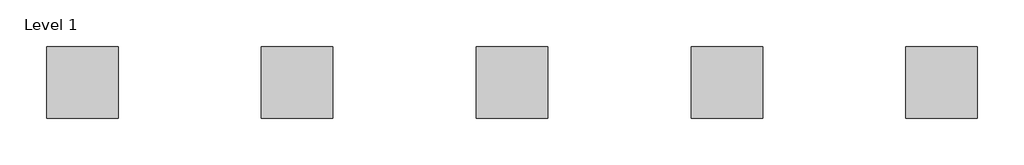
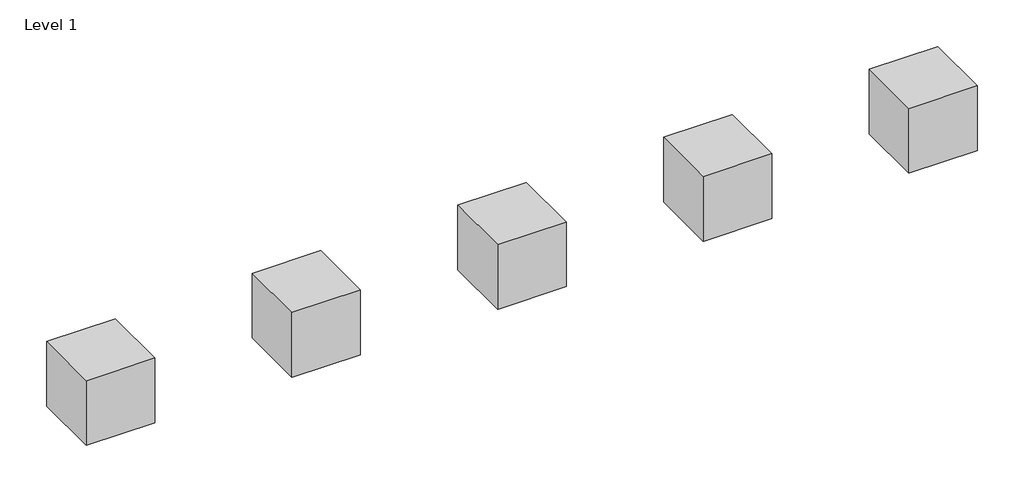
# One storey: 5 proxies.
"""IFC4 building model written with IfcOpenShell, lengths in millimetres."""

import ifcopenshell
import ifcopenshell.guid

model = None  # the IFC model being written
_history = None  # IfcOwnerHistory: only IFC2X3 demands one
_inside = {}  # id of a spatial element -> (the spatial element, [elements in it])
_under = {}  # id of a project, library or spatial element -> (it, [spatial elements below it])
_declared = {}  # id of a project -> (the project, [libraries it declares])
_typed = {}  # id of a type object -> (the type object, [elements of that type])
_made_of = {}  # id of a material, layer set ... -> (it, [elements and type objects made of it])


def new_model(schema):
    """Start an empty IFC model of exactly this schema.

    Asked for "IFC4X3", IfcOpenShell would pick the latest addendum, in which some entities
    have other attributes; the version numbers below select the first issue.
    IFC2X3 requires an IfcOwnerHistory on every rooted entity: one is made here for all.
    """
    global model, _history
    if schema == "IFC4X3":
        model = ifcopenshell.file(schema_version=(4, 3, 0, 0))
    else:
        model = ifcopenshell.file(schema=schema)
    _inside.clear()
    _under.clear()
    _declared.clear()
    _typed.clear()
    _made_of.clear()
    _history = None
    if model.schema == "IFC2X3":
        org = make("IfcOrganization", Name="unknown")
        user = make(
            "IfcPersonAndOrganization",
            ThePerson=make("IfcPerson", FamilyName="unknown"),
            TheOrganization=org,
        )
        app = make(
            "IfcApplication",
            ApplicationDeveloper=org,
            Version="unknown",
            ApplicationFullName="unknown",
            ApplicationIdentifier="unknown",
        )
        _history = make(
            "IfcOwnerHistory",
            OwningUser=user,
            OwningApplication=app,
            ChangeAction="ADDED",
            CreationDate=0,
        )
    return model


def make(cls, **values):
    """One entity of the class cls with the attributes given. An attribute that is None is left unset."""
    return model.create_entity(
        cls, **{name: value for name, value in values.items() if value is not None}
    )


def rooted(cls, **values):
    """An entity with a GlobalId (a new one), such as an element, a storey or a relation."""
    return make(cls, GlobalId=ifcopenshell.guid.new(), OwnerHistory=_history, **values)


def si_unit(unit_type, name, prefix=None):
    """IfcSIUnit, for example si_unit("LENGTHUNIT", "METRE", prefix="MILLI")."""
    return make("IfcSIUnit", UnitType=unit_type, Prefix=prefix, Name=name)


def assignment(units):
    """IfcUnitAssignment: the units of a project."""
    return None if units is None else make("IfcUnitAssignment", Units=units)


def point(xyz):
    """IfcCartesianPoint."""
    return None if xyz is None else make("IfcCartesianPoint", Coordinates=xyz)


def direction(xyz):
    """IfcDirection."""
    return None if xyz is None else make("IfcDirection", DirectionRatios=xyz)


def frame(location, z_axis=None, x_axis=None):
    """IfcAxis2Placement3D, a coordinate frame: its origin and axes. An axis left out is left unset."""
    return make(
        "IfcAxis2Placement3D",
        Location=point(location),
        Axis=direction(z_axis),
        RefDirection=direction(x_axis),
    )


def origin():
    """The frame at (0, 0, 0) with its axes left unset."""
    return frame((0.0, 0.0, 0.0))


def origin_with_axes():
    """The frame at (0, 0, 0) with the z axis (0, 0, 1) and the x axis (1, 0, 0) written out."""
    return frame((0.0, 0.0, 0.0), z_axis=(0.0, 0.0, 1.0), x_axis=(1.0, 0.0, 0.0))


def place(relative_to, where):
    """IfcLocalPlacement: puts the frame where relative to a parent placement (None: the world)."""
    return make(
        "IfcLocalPlacement", PlacementRelTo=relative_to, RelativePlacement=where
    )


def context(
    kind, dimensions, precision=None, world=None, true_north=None, identifier=None
):
    """IfcGeometricRepresentationContext, for example the 3D "Model" context."""
    return make(
        "IfcGeometricRepresentationContext",
        ContextIdentifier=identifier,
        ContextType=kind,
        CoordinateSpaceDimension=dimensions,
        Precision=precision,
        WorldCoordinateSystem=world,
        TrueNorth=true_north,
    )


def project(units=None, contexts=None):
    """IfcProject with its units and contexts."""
    return rooted(
        "IfcProject",
        Name="project",
        RepresentationContexts=contexts,
        UnitsInContext=assignment(units),
    )


def spatial(cls, under=None, at=None, **own):
    """A site, building, storey or space (cls), placed at a placement, below another one or the project."""
    s = rooted(cls, ObjectPlacement=at, **own)
    if under is not None:
        _under.setdefault(under.id(), (under, []))[1].append(s)
    return s


def polyline(points):
    """IfcPolyline through the points."""
    return make("IfcPolyline", Points=[point(p) for p in points])


def outline(outer, holes=None, kind="AREA"):
    """IfcArbitraryClosedProfileDef: a profile drawn as a closed curve; with holes, ...WithVoids."""
    if holes is None:
        return make("IfcArbitraryClosedProfileDef", ProfileType=kind, OuterCurve=outer)
    return make(
        "IfcArbitraryProfileDefWithVoids",
        ProfileType=kind,
        OuterCurve=outer,
        InnerCurves=holes,
    )


def extrude(swept, where, along, depth):
    """IfcExtrudedAreaSolid: the profile swept, set in the frame where, extruded along a direction by depth."""
    return make(
        "IfcExtrudedAreaSolid",
        SweptArea=swept,
        Position=where,
        ExtrudedDirection=direction(along),
        Depth=depth,
    )


def shape(context_of_items, identifier, shape_type, items):
    """IfcShapeRepresentation: the items that make up one representation, for example the "Body"."""
    return make(
        "IfcShapeRepresentation",
        ContextOfItems=context_of_items,
        RepresentationIdentifier=identifier,
        RepresentationType=shape_type,
        Items=items,
    )


def source(mapping_origin, context_of_items, identifier, shape_type, items):
    """IfcRepresentationMap: a shape defined once, which mapped items show again and again."""
    return make(
        "IfcRepresentationMap",
        MappingOrigin=mapping_origin,
        MappedRepresentation=shape(context_of_items, identifier, shape_type, items),
    )


def transform(
    local_origin,
    x_axis=None,
    y_axis=None,
    z_axis=None,
    scale=None,
    scale2=None,
    scale3=None,
    uniform=True,
):
    """IfcCartesianTransformationOperator3D, or its non-uniform kind. x_axis, y_axis, z_axis: its Axis1, 2, 3."""
    if uniform:
        return make(
            "IfcCartesianTransformationOperator3D",
            Axis1=direction(x_axis),
            Axis2=direction(y_axis),
            LocalOrigin=point(local_origin),
            Scale=scale,
            Axis3=direction(z_axis),
        )
    return make(
        "IfcCartesianTransformationOperator3DnonUniform",
        Axis1=direction(x_axis),
        Axis2=direction(y_axis),
        LocalOrigin=point(local_origin),
        Scale=scale,
        Axis3=direction(z_axis),
        Scale2=scale2,
        Scale3=scale3,
    )


def mapped(mapping_source, mapping_target):
    """IfcMappedItem: shows the shape of a source again, moved by a transform."""
    return make(
        "IfcMappedItem", MappingSource=mapping_source, MappingTarget=mapping_target
    )


def made_of(thing, what):
    """Note that an element or type object is made of a material, layer set ...; save() writes the relation."""
    if what is not None:
        _made_of.setdefault(what.id(), (what, []))[1].append(thing)
    return thing


def element(
    cls,
    number,
    at=None,
    inside=None,
    cuts=None,
    type_object=None,
    material=None,
    context=None,
    identifier="Body",
    shape_type=None,
    held_by="IfcProductDefinitionShape",
    body=None,
    shapes=None,
    **own,
):
    """One element of the class cls, such as IfcWall. Its Tag is "e" and its number.

    at: its placement. inside: the storey or other place that contains it. cuts: it is an
    opening in that element (IfcRelVoidsElement). A single representation is given by context,
    identifier, shape_type and body (its items); several are given by shapes. held_by: the class
    of the entity that holds the representations. save() writes the other relations.
    """
    e = rooted(cls, Tag="e%d" % number, ObjectPlacement=at, **own)
    if body is not None:
        shapes = [shape(context, identifier, shape_type, body)]
    if shapes is not None:
        e.Representation = make(held_by, Representations=shapes)
    if inside is not None:
        _inside.setdefault(inside.id(), (inside, []))[1].append(e)
    if cuts is not None:
        rooted(
            "IfcRelVoidsElement", RelatingBuildingElement=cuts, RelatedOpeningElement=e
        )
    if type_object is not None:
        _typed.setdefault(type_object.id(), (type_object, []))[1].append(e)
    return made_of(e, material)


def aggregate(whole, parts):
    """IfcRelAggregates: a whole, such as a stair, and the parts it consists of."""
    return rooted("IfcRelAggregates", RelatingObject=whole, RelatedObjects=parts)


def save(model, path):
    """Write the relations noted so far, then the file.

    IfcRelAggregates (storeys below a building ...), IfcRelContainedInSpatialStructure (elements
    in a storey), IfcRelDefinesByType, IfcRelAssociatesMaterial and IfcRelDeclares: one each for
    every whole, place, type object, material and project.
    """
    for whole, parts in _under.values():
        aggregate(whole, parts)
    for where, things in _inside.values():
        rooted(
            "IfcRelContainedInSpatialStructure",
            RelatedElements=things,
            RelatingStructure=where,
        )
    for kind, things in _typed.values():
        rooted("IfcRelDefinesByType", RelatedObjects=things, RelatingType=kind)
    for what, things in _made_of.values():
        rooted("IfcRelAssociatesMaterial", RelatedObjects=things, RelatingMaterial=what)
    for by, libraries in _declared.values():
        rooted("IfcRelDeclares", RelatingContext=by, RelatedDefinitions=libraries)
    model.write(path)


def material_box_material_box_b1b65d76(model_context):
    return source(origin(), model_context, "Body", "SweptSolid", [
        extrude(outline(polyline([(-12108.9561438, 8001.6409453), (-12108.9561438, 7001.6409453), (-13108.9561438, 7001.6409453), (-13108.9561438, 8001.6409453), (-12108.9561438, 8001.6409453)])), origin_with_axes(), (0.0, 0.0, 1.0), 1000.0),
    ])


model = new_model("IFC4")

# Units and contexts
model_context = context("Model", 3, world=origin())
ifc_project = project(units=[si_unit("LENGTHUNIT", "METRE", prefix="MILLI")], contexts=[model_context])

# Site, building, storey
site = spatial("IfcSite", under=ifc_project)
building = spatial("IfcBuilding", under=site)
storey = spatial("IfcBuildingStorey", under=building, Name="Level 1", Elevation=0.0)

# Proxies
placement = place(None, origin())
material_box_material_box_shape = material_box_material_box_b1b65d76(model_context)
element("IfcBuildingElementProxy", 1, Name="Material Box : Material Box", ObjectType="Material Box : Material Box", at=placement, inside=storey, context=model_context, shape_type="MappedRepresentation", body=[
    mapped(material_box_material_box_shape, transform((7353.9105243, -7353.9105243, 0.0), x_axis=(1.0, 0.0, 0.0), y_axis=(0.0, 1.0, 0.0), z_axis=(0.0, 0.0, 1.0))),
])
element("IfcBuildingElementProxy", 2, Name="Material Box1 : Material Box", ObjectType="Material Box1 : Material Box", at=placement, inside=storey, context=model_context, shape_type="MappedRepresentation", body=[
    mapped(material_box_material_box_shape, transform((10353.9105243, -7353.9105243, 0.0), x_axis=(1.0, 0.0, 0.0), y_axis=(0.0, 1.0, 0.0), z_axis=(0.0, 0.0, 1.0))),
])
element("IfcBuildingElementProxy", 3, Name="Material Box2 : Material Box", ObjectType="Material Box2 : Material Box", at=placement, inside=storey, context=model_context, shape_type="MappedRepresentation", body=[
    mapped(material_box_material_box_shape, transform((13353.9105243, -7353.9105243, 0.0), x_axis=(1.0, 0.0, 0.0), y_axis=(0.0, 1.0, 0.0), z_axis=(0.0, 0.0, 1.0))),
])
element("IfcBuildingElementProxy", 4, Name="Material Box3 : Material Box", ObjectType="Material Box3 : Material Box", at=placement, inside=storey, context=model_context, shape_type="MappedRepresentation", body=[
    mapped(material_box_material_box_shape, transform((16353.9105243, -7353.9105243, 0.0), x_axis=(1.0, 0.0, 0.0), y_axis=(0.0, 1.0, 0.0), z_axis=(0.0, 0.0, 1.0))),
])
element("IfcBuildingElementProxy", 5, Name="Material Box4 : Material Box", ObjectType="Material Box4 : Material Box", at=placement, inside=storey, context=model_context, shape_type="MappedRepresentation", body=[
    mapped(material_box_material_box_shape, transform((19353.9105243, -7353.9105243, 0.0), x_axis=(1.0, 0.0, 0.0), y_axis=(0.0, 1.0, 0.0), z_axis=(0.0, 0.0, 1.0))),
])

save(model, "model.ifc")
